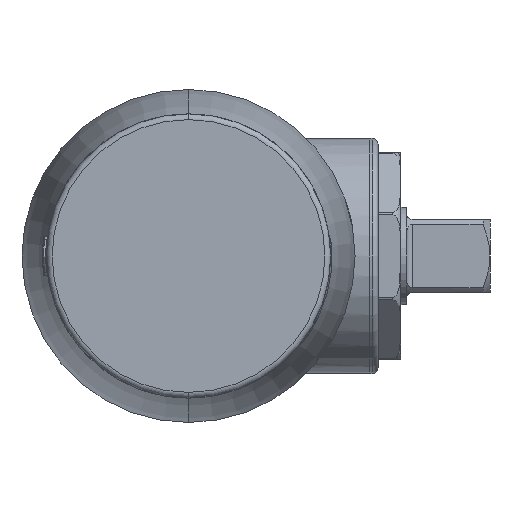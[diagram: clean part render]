
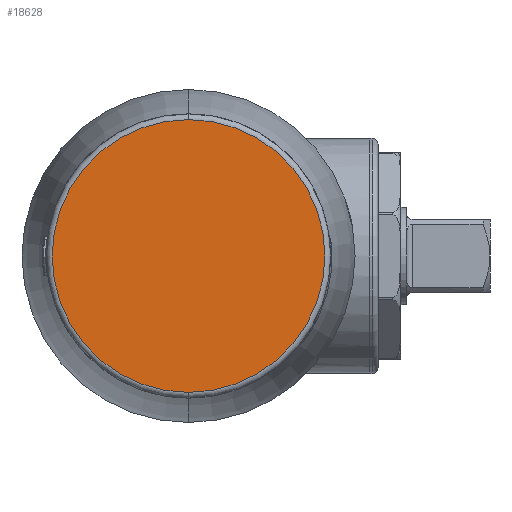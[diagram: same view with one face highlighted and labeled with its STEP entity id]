
A CAD part, left-side view. The second image highlights one B-rep face of the part: STEP entity #18628.
In plain terms, the highlighted planar face has unit normal (-1, 0, 0).
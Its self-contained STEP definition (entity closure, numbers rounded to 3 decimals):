
#3327 = EDGE_CURVE ( 'NONE', #39585, #38949, #46796, .T. ) ;
#6693 = ORIENTED_EDGE ( 'NONE', *, *, #31173, .T. ) ;
#6793 = AXIS2_PLACEMENT_3D ( 'NONE', #19794, #48575, #19403 ) ;
#7892 = CARTESIAN_POINT ( 'NONE',  ( -183.5, 0., 0. ) ) ;
#12706 = DIRECTION ( 'NONE',  ( -1., 0., 0. ) ) ;
#16425 = CARTESIAN_POINT ( 'NONE',  ( -183.5, 0., -23.75 ) ) ;
#17069 = EDGE_LOOP ( 'NONE', ( #30657, #6693 ) ) ;
#18628 = ADVANCED_FACE ( 'NONE', ( #35793 ), #53083, .T. ) ;
#19403 = DIRECTION ( 'NONE',  ( 0., 0., 1. ) ) ;
#19794 = CARTESIAN_POINT ( 'NONE',  ( -183.5, 0., 0. ) ) ;
#28827 = DIRECTION ( 'NONE',  ( 0., 0., 1. ) ) ;
#29351 = CIRCLE ( 'NONE', #6793, 23.75 ) ;
#30657 = ORIENTED_EDGE ( 'NONE', *, *, #3327, .T. ) ;
#31173 = EDGE_CURVE ( 'NONE', #38949, #39585, #29351, .T. ) ;
#31847 = CARTESIAN_POINT ( 'NONE',  ( -183.5, 0., 0. ) ) ;
#35793 = FACE_OUTER_BOUND ( 'NONE', #17069, .T. ) ;
#38949 = VERTEX_POINT ( 'NONE', #16425 ) ;
#39585 = VERTEX_POINT ( 'NONE', #43921 ) ;
#41129 = DIRECTION ( 'NONE',  ( -1., 0., 0. ) ) ;
#43491 = AXIS2_PLACEMENT_3D ( 'NONE', #31847, #41129, #44319 ) ;
#43921 = CARTESIAN_POINT ( 'NONE',  ( -183.5, 0., 23.75 ) ) ;
#44319 = DIRECTION ( 'NONE',  ( 0., 0., 1. ) ) ;
#46796 = CIRCLE ( 'NONE', #54035, 23.75 ) ;
#48575 = DIRECTION ( 'NONE',  ( -1., 0., 0. ) ) ;
#53083 = PLANE ( 'NONE',  #43491 ) ;
#54035 = AXIS2_PLACEMENT_3D ( 'NONE', #7892, #12706, #28827 ) ;
